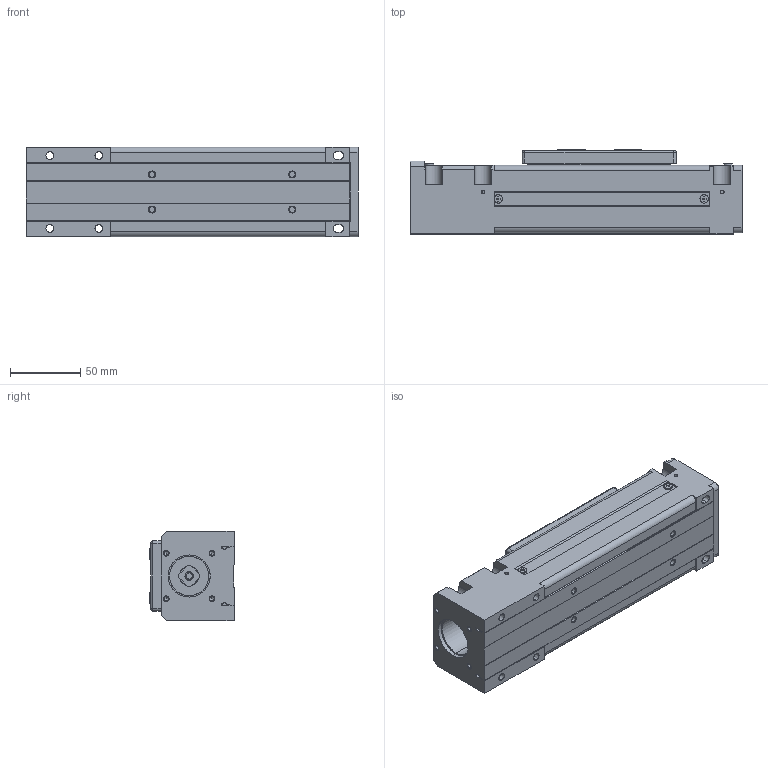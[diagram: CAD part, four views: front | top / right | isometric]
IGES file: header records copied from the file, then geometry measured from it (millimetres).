
Start section: SolidWorks IGES file using analytic representation for surfaces
Global section: file name: C:\Users\render\Documents\CAD Files\Integrated-Actuators\RL-Sreies\RL-60T\RL-60T-50.IGS; native system: SolidWorks 2009; preprocessor: SolidWorks 2009; author: render; date: 100614.133034; units: millimetre
Bounding box: 237 x 60 x 64 mm (x, y, z)
Surface area: 144632.8 mm2 (no closed solid volume)
Topology: 0 solids, 0 shells, 635 faces, 6568 edges, 6554 vertices
Faces by surface type: bspline 440, revolution 195
